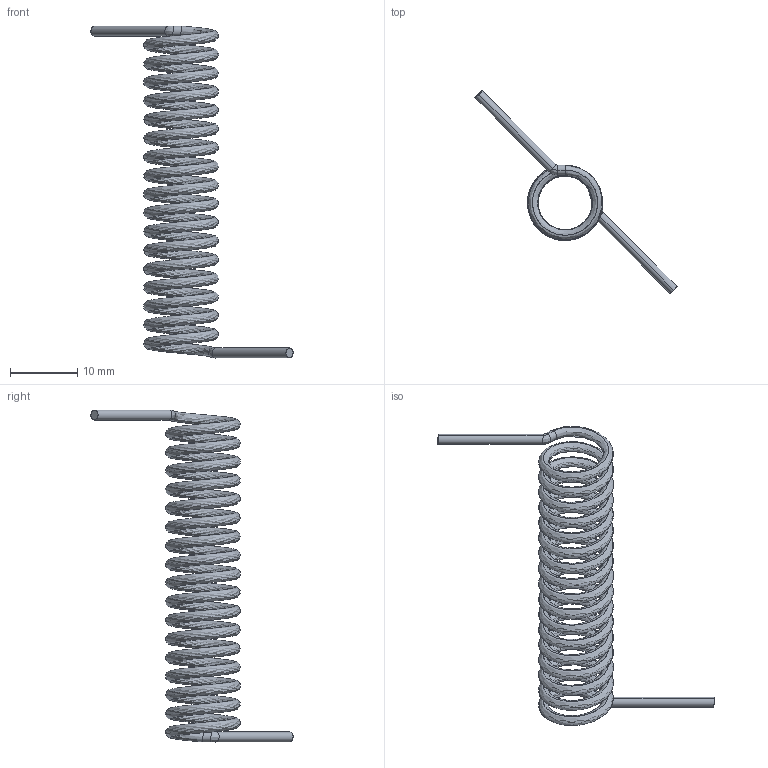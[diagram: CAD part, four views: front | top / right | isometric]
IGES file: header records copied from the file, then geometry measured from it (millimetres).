
Start section: SolidWorks IGES file using analytic representation for surfaces
Global section: file name: C:\Users\cbrechard\Desktop\CC 1474\1474.230.00.IGS; native system: SolidWorks 2008; preprocessor: SolidWorks 2008; author: cbrechard; date: 120124.101539; units: millimetre
Bounding box: 30.14 x 30.14 x 49.49 mm (x, y, z)
Surface area: 2655.8 mm2 (no closed solid volume)
Topology: 0 solids, 0 shells, 16 faces, 92 edges, 92 vertices
Faces by surface type: bspline 16
